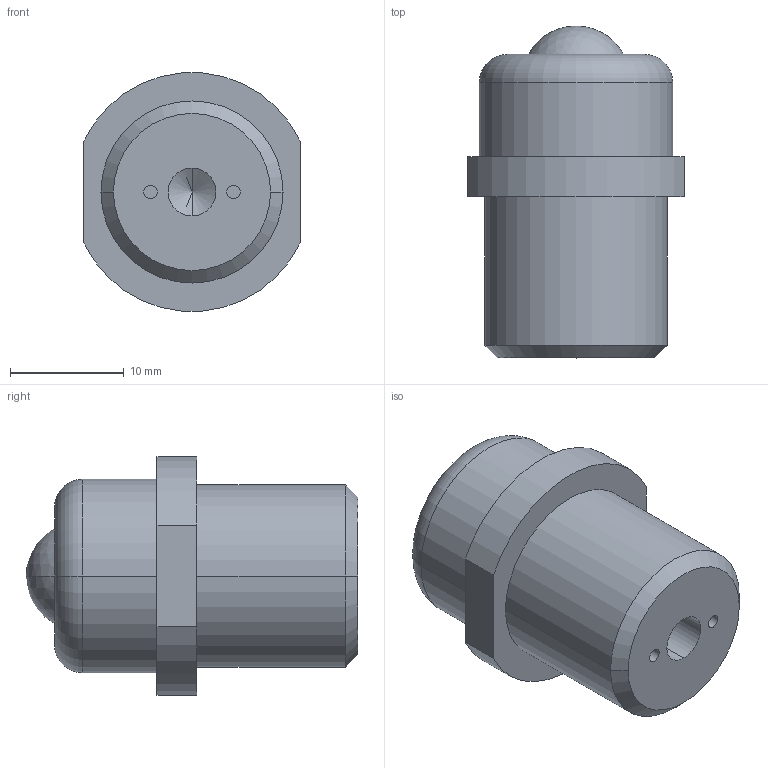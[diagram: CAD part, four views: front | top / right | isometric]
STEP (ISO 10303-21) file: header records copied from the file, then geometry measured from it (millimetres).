
FILE_DESCRIPTION (( 'STEP AP203' ), '1' );
FILE_NAME ('PVPR10BJ-SJ.STEP', '2015-12-15T05:01:06', ( '' ), ( '' ), 'SwSTEP 2.0', 'SolidWorks 2013', '' );
FILE_SCHEMA (( 'CONFIG_CONTROL_DESIGN' ));
Length unit declared in the file: millimetre
Products named in the file (1): PVPR10BJ-SJ
Bounding box: 19 x 29.15 x 20.92 mm (x, y, z)
Volume: 5901.9 mm3; surface area: 2158.7 mm2
Topology: 1 solids, 1 shells, 28 faces, 58 edges, 36 vertices
Faces by surface type: cylinder 12, plane 8, cone 4, torus 2, sphere 2
Entity records: 819 total; most frequent: DIRECTION 148, CARTESIAN_POINT 121, ORIENTED_EDGE 112, AXIS2_PLACEMENT_3D 63, EDGE_CURVE 56, VERTEX_POINT 36, CIRCLE 34, EDGE_LOOP 34
